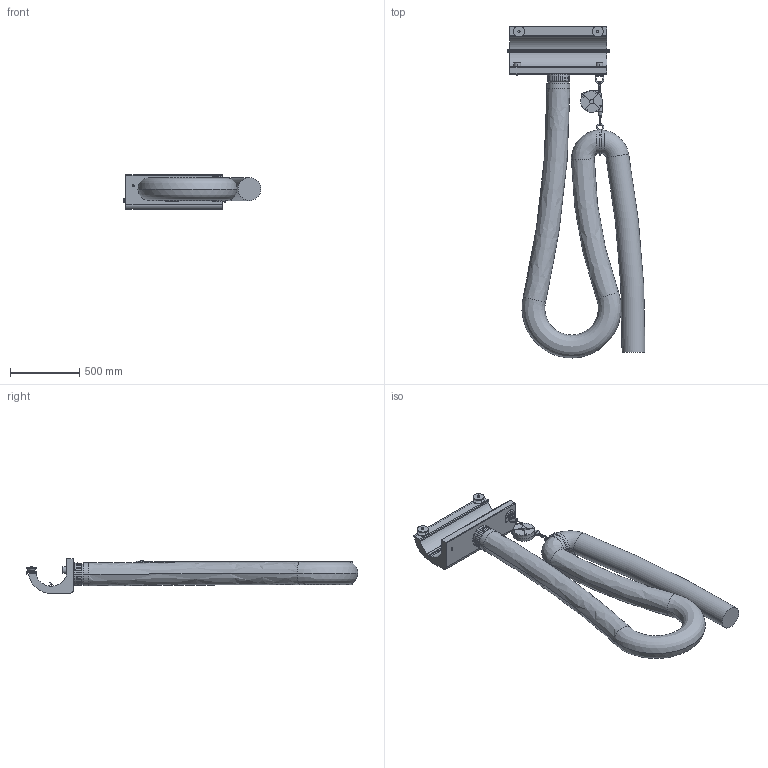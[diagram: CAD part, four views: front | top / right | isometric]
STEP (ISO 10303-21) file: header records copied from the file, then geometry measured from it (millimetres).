
FILE_DESCRIPTION((''),'2;1');
FILE_NAME('APS_515_M-R','2022-05-25T14:51:25',('Tomas Bellgran'),(''),'CREO PARAMETRIC BY PTC INC, 2018260','CREO PARAMETRIC BY PTC INC, 2018260','');
FILE_SCHEMA(('AUTOMOTIVE_DESIGN { 1 0 10303 214 1 1 1 1 }'));
Length unit declared in the file: millimetre
Products named in the file (17): 130-500_LIGHT; SURRNINGSOGLA; RCF_160-150; RF300_L; 109050-1-REF; 109050-2-REF; 109050; 109020; 129023; 108775_AF15; 115263; 109053-1-REF; 109053-2-REF; 109053; HOSE_RIGHT-150; RIGHT_HOSE_PKG_150; APS_515_M-R
Assembly tree (16 placements, depth 5):
  APS_515_M-R
    130-500_LIGHT
    SURRNINGSOGLA
    RCF_160-150
    RIGHT_HOSE_PKG_150
      109020
        RF300_L
        109050
          109050-1-REF
          109050-2-REF
      129023
      108775_AF15
      115263
      109053
        109053-1-REF
        109053-2-REF
      HOSE_RIGHT-150
Bounding box: 993.46 x 2390.62 x 251 mm (x, y, z)
Volume: 139902637.3 mm3; surface area: 4142319.4 mm2
Topology: 12 solids, 12 shells, 512 faces, 1209 edges, 752 vertices
Faces by surface type: plane 202, cylinder 189, torus 59, cone 38, bspline 16, sphere 8
Entity records: 29888 total; most frequent: CARTESIAN_POINT 6507, DIRECTION 2929, ORIENTED_EDGE 2402, PRESENTATION_STYLE_ASSIGNMENT 1478, STYLED_ITEM 1408, EDGE_CURVE 1201, AXIS2_PLACEMENT_3D 1153, CURVE_STYLE 1093
